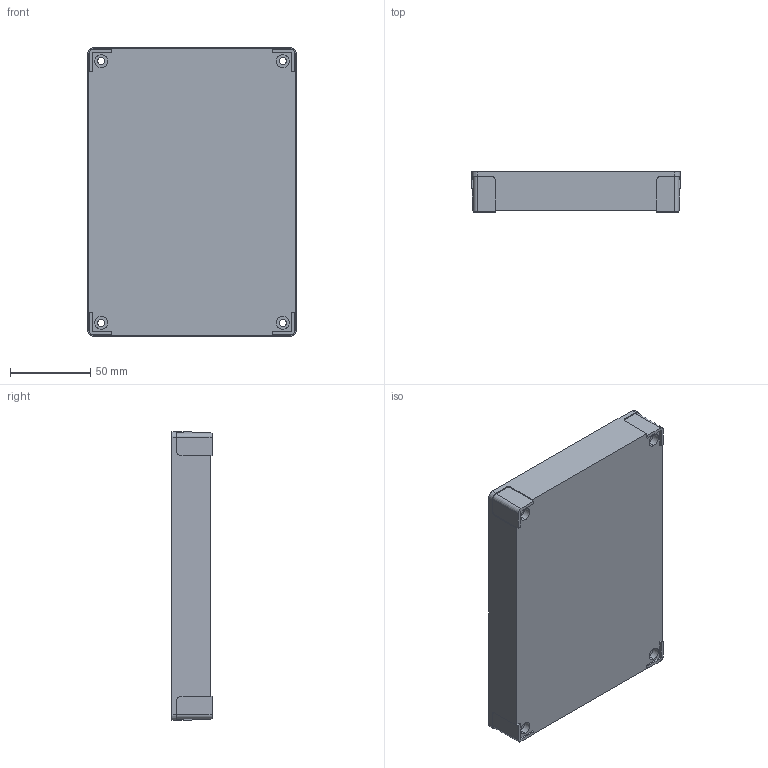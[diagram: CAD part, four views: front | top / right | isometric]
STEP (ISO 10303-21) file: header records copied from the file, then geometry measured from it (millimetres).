
FILE_DESCRIPTION (( 'STEP AP203' ), '1' );
FILE_NAME ('FIBOX_MNX150LB.STEP', '2005-06-30T07:00:27', ( ' ' ), ( ' ' ), 'SwSTEP 2.0', 'SolidWorks 2005143', '' );
FILE_SCHEMA (( 'CONFIG_CONTROL_DESIGN' ));
Length unit declared in the file: millimetre
Products named in the file (1): FIBOX_MNX150LB
Bounding box: 130.1 x 25 x 180.1 mm (x, y, z)
Volume: 131166.6 mm3; surface area: 77098.6 mm2
Topology: 1 solids, 1 shells, 266 faces, 669 edges, 446 vertices
Faces by surface type: plane 154, cylinder 92, cone 20
Entity records: 8118 total; most frequent: CARTESIAN_POINT 1478, DIRECTION 1387, ORIENTED_EDGE 1338, EDGE_CURVE 669, AXIS2_PLACEMENT_3D 483, VERTEX_POINT 446, VECTOR 421, LINE 421
